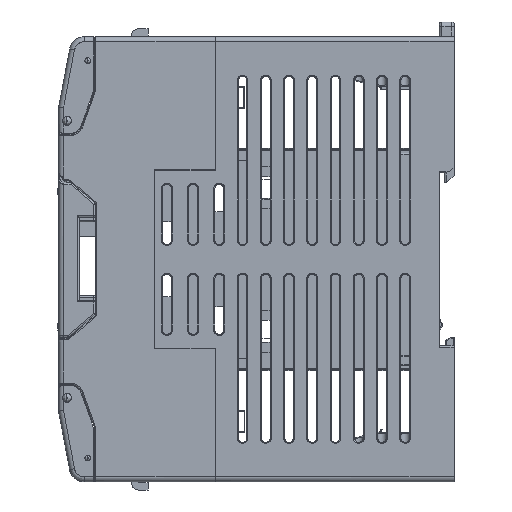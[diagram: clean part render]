
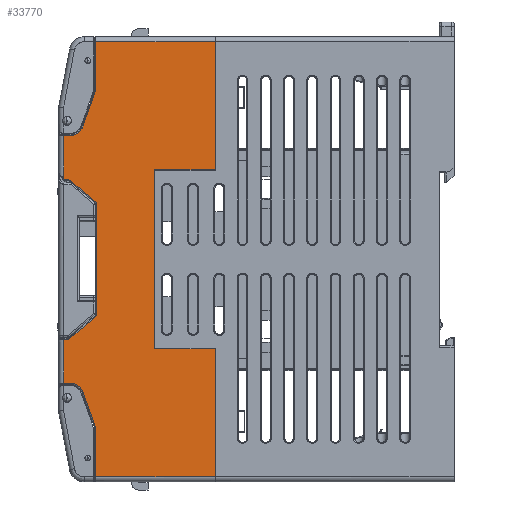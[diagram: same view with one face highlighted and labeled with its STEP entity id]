
A CAD part, left-side view. The second image highlights one B-rep face of the part: STEP entity #33770.
In plain terms, the highlighted planar face has unit normal (-1, 0, 0).
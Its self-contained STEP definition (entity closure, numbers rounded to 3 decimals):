
#33770=ADVANCED_FACE('',(#37002),#105688,.T.);
#37002=FACE_OUTER_BOUND('',#40144,.T.);
#40144=EDGE_LOOP('',(#49220,#49221,#49222,#49223,#49224,#49225,#49226,#49227,
#49228,#49229,#49230,#49231,#49232,#49233,#49234,#49235,#49236,#49237,#49238,
#49239,#49240,#49241,#49242));
#49220=ORIENTED_EDGE('',*,*,#64987,.T.);
#49221=ORIENTED_EDGE('',*,*,#65009,.T.);
#49222=ORIENTED_EDGE('',*,*,#65008,.T.);
#49223=ORIENTED_EDGE('',*,*,#65007,.T.);
#49224=ORIENTED_EDGE('',*,*,#65006,.T.);
#49225=ORIENTED_EDGE('',*,*,#65005,.T.);
#49226=ORIENTED_EDGE('',*,*,#65004,.T.);
#49227=ORIENTED_EDGE('',*,*,#65003,.T.);
#49228=ORIENTED_EDGE('',*,*,#65002,.T.);
#49229=ORIENTED_EDGE('',*,*,#65001,.T.);
#49230=ORIENTED_EDGE('',*,*,#65000,.T.);
#49231=ORIENTED_EDGE('',*,*,#64999,.T.);
#49232=ORIENTED_EDGE('',*,*,#64998,.T.);
#49233=ORIENTED_EDGE('',*,*,#64997,.T.);
#49234=ORIENTED_EDGE('',*,*,#64996,.T.);
#49235=ORIENTED_EDGE('',*,*,#64995,.T.);
#49236=ORIENTED_EDGE('',*,*,#64994,.T.);
#49237=ORIENTED_EDGE('',*,*,#64993,.T.);
#49238=ORIENTED_EDGE('',*,*,#64992,.T.);
#49239=ORIENTED_EDGE('',*,*,#64991,.T.);
#49240=ORIENTED_EDGE('',*,*,#64990,.T.);
#49241=ORIENTED_EDGE('',*,*,#64989,.T.);
#49242=ORIENTED_EDGE('',*,*,#64988,.T.);
#64987=EDGE_CURVE('',#96517,#96518,#82995,.T.);
#64988=EDGE_CURVE('',#96519,#96517,#82996,.T.);
#64989=EDGE_CURVE('',#96520,#96519,#75388,.T.);
#64990=EDGE_CURVE('',#96521,#96520,#82997,.T.);
#64991=EDGE_CURVE('',#96522,#96521,#82998,.T.);
#64992=EDGE_CURVE('',#96523,#96522,#82999,.T.);
#64993=EDGE_CURVE('',#96524,#96523,#83000,.T.);
#64994=EDGE_CURVE('',#96525,#96524,#83001,.T.);
#64995=EDGE_CURVE('',#96526,#96525,#83002,.T.);
#64996=EDGE_CURVE('',#96527,#96526,#83003,.T.);
#64997=EDGE_CURVE('',#96528,#96527,#83004,.T.);
#64998=EDGE_CURVE('',#96529,#96528,#83005,.T.);
#64999=EDGE_CURVE('',#96530,#96529,#83006,.T.);
#65000=EDGE_CURVE('',#96531,#96530,#75389,.T.);
#65001=EDGE_CURVE('',#96532,#96531,#83007,.T.);
#65002=EDGE_CURVE('',#96533,#96532,#83008,.T.);
#65003=EDGE_CURVE('',#96534,#96533,#83009,.T.);
#65004=EDGE_CURVE('',#96535,#96534,#83010,.T.);
#65005=EDGE_CURVE('',#96536,#96535,#83011,.T.);
#65006=EDGE_CURVE('',#96537,#96536,#83012,.T.);
#65007=EDGE_CURVE('',#96538,#96537,#83013,.T.);
#65008=EDGE_CURVE('',#96539,#96538,#83014,.T.);
#65009=EDGE_CURVE('',#96518,#96539,#83015,.T.);
#75388=(
BOUNDED_CURVE()
B_SPLINE_CURVE(2,(#151599,#151600,#151601),.UNSPECIFIED.,.F.,.F.)
B_SPLINE_CURVE_WITH_KNOTS((3,3),(-3.558,0.),.UNSPECIFIED.)
CURVE()
GEOMETRIC_REPRESENTATION_ITEM()
RATIONAL_B_SPLINE_CURVE((1.,0.818,1.))
REPRESENTATION_ITEM('')
);
#75389=(
BOUNDED_CURVE()
B_SPLINE_CURVE(2,(#151622,#151623,#151624),.UNSPECIFIED.,.F.,.F.)
B_SPLINE_CURVE_WITH_KNOTS((3,3),(-3.558,0.),.UNSPECIFIED.)
CURVE()
GEOMETRIC_REPRESENTATION_ITEM()
RATIONAL_B_SPLINE_CURVE((1.,0.818,1.))
REPRESENTATION_ITEM('')
);
#82995=B_SPLINE_CURVE_WITH_KNOTS('',1,(#151595,#151596),.UNSPECIFIED.,.F.,
 .F.,(2,2),(-9.935,0.),.UNSPECIFIED.);
#82996=B_SPLINE_CURVE_WITH_KNOTS('',1,(#151597,#151598),.UNSPECIFIED.,.F.,
 .F.,(2,2),(-7.534,0.),.UNSPECIFIED.);
#82997=B_SPLINE_CURVE_WITH_KNOTS('',1,(#151602,#151603),.UNSPECIFIED.,.F.,
 .F.,(2,2),(-1.229,0.),.UNSPECIFIED.);
#82998=B_SPLINE_CURVE_WITH_KNOTS('',1,(#151604,#151605),.UNSPECIFIED.,.F.,
 .F.,(2,2),(-8.85,0.),.UNSPECIFIED.);
#82999=B_SPLINE_CURVE_WITH_KNOTS('',1,(#151606,#151607),.UNSPECIFIED.,.F.,
 .F.,(2,2),(-1.074,0.),.UNSPECIFIED.);
#83000=B_SPLINE_CURVE_WITH_KNOTS('',1,(#151608,#151609),.UNSPECIFIED.,.F.,
 .F.,(2,2),(-7.33,0.),.UNSPECIFIED.);
#83001=B_SPLINE_CURVE_WITH_KNOTS('',1,(#151610,#151611),.UNSPECIFIED.,.F.,
 .F.,(2,2),(-22.885,0.),.UNSPECIFIED.);
#83002=B_SPLINE_CURVE_WITH_KNOTS('',1,(#151612,#151613),.UNSPECIFIED.,.F.,
 .F.,(2,2),(-7.33,0.),.UNSPECIFIED.);
#83003=B_SPLINE_CURVE_WITH_KNOTS('',1,(#151614,#151615),.UNSPECIFIED.,.F.,
 .F.,(2,2),(-0.897,0.),.UNSPECIFIED.);
#83004=B_SPLINE_CURVE_WITH_KNOTS('',1,(#151616,#151617),.UNSPECIFIED.,.F.,
 .F.,(2,2),(-0.276,0.),.UNSPECIFIED.);
#83005=B_SPLINE_CURVE_WITH_KNOTS('',1,(#151618,#151619),.UNSPECIFIED.,.F.,
 .F.,(2,2),(-8.638,0.),.UNSPECIFIED.);
#83006=B_SPLINE_CURVE_WITH_KNOTS('',1,(#151620,#151621),.UNSPECIFIED.,.F.,
 .F.,(2,2),(-1.229,0.),.UNSPECIFIED.);
#83007=B_SPLINE_CURVE_WITH_KNOTS('',1,(#151625,#151626),.UNSPECIFIED.,.F.,
 .F.,(2,2),(-7.534,0.),.UNSPECIFIED.);
#83008=B_SPLINE_CURVE_WITH_KNOTS('',1,(#151627,#151628),.UNSPECIFIED.,.F.,
 .F.,(2,2),(-9.935,0.),.UNSPECIFIED.);
#83009=B_SPLINE_CURVE_WITH_KNOTS('',1,(#151629,#151630),.UNSPECIFIED.,.F.,
 .F.,(2,2),(-24.2,0.),.UNSPECIFIED.);
#83010=B_SPLINE_CURVE_WITH_KNOTS('',1,(#151631,#151632),.UNSPECIFIED.,.F.,
 .F.,(2,2),(-25.9,0.),.UNSPECIFIED.);
#83011=B_SPLINE_CURVE_WITH_KNOTS('',1,(#151633,#151634),.UNSPECIFIED.,.F.,
 .F.,(2,2),(-12.3,0.),.UNSPECIFIED.);
#83012=B_SPLINE_CURVE_WITH_KNOTS('',1,(#151635,#151636),.UNSPECIFIED.,.F.,
 .F.,(2,2),(-36.2,0.),.UNSPECIFIED.);
#83013=B_SPLINE_CURVE_WITH_KNOTS('',1,(#151637,#151638),.UNSPECIFIED.,.F.,
 .F.,(2,2),(-12.3,0.),.UNSPECIFIED.);
#83014=B_SPLINE_CURVE_WITH_KNOTS('',1,(#151639,#151640),.UNSPECIFIED.,.F.,
 .F.,(2,2),(-25.9,0.),.UNSPECIFIED.);
#83015=B_SPLINE_CURVE_WITH_KNOTS('',1,(#151641,#151642),.UNSPECIFIED.,.F.,
 .F.,(2,2),(-24.2,0.),.UNSPECIFIED.);
#96517=VERTEX_POINT('',#151572);
#96518=VERTEX_POINT('',#151573);
#96519=VERTEX_POINT('',#151574);
#96520=VERTEX_POINT('',#151575);
#96521=VERTEX_POINT('',#151576);
#96522=VERTEX_POINT('',#151577);
#96523=VERTEX_POINT('',#151578);
#96524=VERTEX_POINT('',#151579);
#96525=VERTEX_POINT('',#151580);
#96526=VERTEX_POINT('',#151581);
#96527=VERTEX_POINT('',#151582);
#96528=VERTEX_POINT('',#151583);
#96529=VERTEX_POINT('',#151584);
#96530=VERTEX_POINT('',#151585);
#96531=VERTEX_POINT('',#151586);
#96532=VERTEX_POINT('',#151587);
#96533=VERTEX_POINT('',#151588);
#96534=VERTEX_POINT('',#151589);
#96535=VERTEX_POINT('',#151590);
#96536=VERTEX_POINT('',#151591);
#96537=VERTEX_POINT('',#151592);
#96538=VERTEX_POINT('',#151593);
#96539=VERTEX_POINT('',#151594);
#105688=PLANE('',#107776);
#107776=AXIS2_PLACEMENT_3D('',#151571,#110315,$);
#110315=DIRECTION('',(-1.,0.,0.));
#151571=CARTESIAN_POINT('',(-20.,4.084,-52.946));
#151572=CARTESIAN_POINT('',(-20.,31.5,-34.065));
#151573=CARTESIAN_POINT('',(-20.,31.5,-44.));
#151574=CARTESIAN_POINT('',(-20.,34.041,-26.972));
#151575=CARTESIAN_POINT('',(-20.,36.771,-25.05));
#151576=CARTESIAN_POINT('',(-20.,38.,-25.05));
#151577=CARTESIAN_POINT('',(-20.,38.,-16.2));
#151578=CARTESIAN_POINT('',(-20.,36.926,-16.2));
#151579=CARTESIAN_POINT('',(-20.,31.35,-11.442));
#151580=CARTESIAN_POINT('',(-20.,31.35,11.442));
#151581=CARTESIAN_POINT('',(-20.,36.926,16.2));
#151582=CARTESIAN_POINT('',(-20.,37.823,16.2));
#151583=CARTESIAN_POINT('',(-20.,38.,16.412));
#151584=CARTESIAN_POINT('',(-20.,38.,25.05));
#151585=CARTESIAN_POINT('',(-20.,36.771,25.05));
#151586=CARTESIAN_POINT('',(-20.,34.041,26.972));
#151587=CARTESIAN_POINT('',(-20.,31.5,34.065));
#151588=CARTESIAN_POINT('',(-20.,31.5,44.));
#151589=CARTESIAN_POINT('',(-20.,7.3,44.));
#151590=CARTESIAN_POINT('',(-20.,7.3,18.1));
#151591=CARTESIAN_POINT('',(-20.,19.6,18.1));
#151592=CARTESIAN_POINT('',(-20.,19.6,-18.1));
#151593=CARTESIAN_POINT('',(-20.,7.3,-18.1));
#151594=CARTESIAN_POINT('',(-20.,7.3,-44.));
#151595=CARTESIAN_POINT('',(-20.,31.5,-34.065));
#151596=CARTESIAN_POINT('',(-20.,31.5,-44.));
#151597=CARTESIAN_POINT('',(-20.,34.041,-26.972));
#151598=CARTESIAN_POINT('',(-20.,31.5,-34.065));
#151599=CARTESIAN_POINT('',(-20.,36.771,-25.05));
#151600=CARTESIAN_POINT('',(-20.,34.729,-25.05));
#151601=CARTESIAN_POINT('',(-20.,34.041,-26.972));
#151602=CARTESIAN_POINT('',(-20.,38.,-25.05));
#151603=CARTESIAN_POINT('',(-20.,36.771,-25.05));
#151604=CARTESIAN_POINT('',(-20.,38.,-16.2));
#151605=CARTESIAN_POINT('',(-20.,38.,-25.05));
#151606=CARTESIAN_POINT('',(-20.,36.926,-16.2));
#151607=CARTESIAN_POINT('',(-20.,38.,-16.2));
#151608=CARTESIAN_POINT('',(-20.,31.35,-11.442));
#151609=CARTESIAN_POINT('',(-20.,36.926,-16.2));
#151610=CARTESIAN_POINT('',(-20.,31.35,11.442));
#151611=CARTESIAN_POINT('',(-20.,31.35,-11.442));
#151612=CARTESIAN_POINT('',(-20.,36.926,16.2));
#151613=CARTESIAN_POINT('',(-20.,31.35,11.442));
#151614=CARTESIAN_POINT('',(-20.,37.823,16.2));
#151615=CARTESIAN_POINT('',(-20.,36.926,16.2));
#151616=CARTESIAN_POINT('',(-20.,38.,16.412));
#151617=CARTESIAN_POINT('',(-20.,37.823,16.2));
#151618=CARTESIAN_POINT('',(-20.,38.,25.05));
#151619=CARTESIAN_POINT('',(-20.,38.,16.412));
#151620=CARTESIAN_POINT('',(-20.,36.771,25.05));
#151621=CARTESIAN_POINT('',(-20.,38.,25.05));
#151622=CARTESIAN_POINT('',(-20.,34.041,26.972));
#151623=CARTESIAN_POINT('',(-20.,34.729,25.05));
#151624=CARTESIAN_POINT('',(-20.,36.771,25.05));
#151625=CARTESIAN_POINT('',(-20.,31.5,34.065));
#151626=CARTESIAN_POINT('',(-20.,34.041,26.972));
#151627=CARTESIAN_POINT('',(-20.,31.5,44.));
#151628=CARTESIAN_POINT('',(-20.,31.5,34.065));
#151629=CARTESIAN_POINT('',(-20.,7.3,44.));
#151630=CARTESIAN_POINT('',(-20.,31.5,44.));
#151631=CARTESIAN_POINT('',(-20.,7.3,18.1));
#151632=CARTESIAN_POINT('',(-20.,7.3,44.));
#151633=CARTESIAN_POINT('',(-20.,19.6,18.1));
#151634=CARTESIAN_POINT('',(-20.,7.3,18.1));
#151635=CARTESIAN_POINT('',(-20.,19.6,-18.1));
#151636=CARTESIAN_POINT('',(-20.,19.6,18.1));
#151637=CARTESIAN_POINT('',(-20.,7.3,-18.1));
#151638=CARTESIAN_POINT('',(-20.,19.6,-18.1));
#151639=CARTESIAN_POINT('',(-20.,7.3,-44.));
#151640=CARTESIAN_POINT('',(-20.,7.3,-18.1));
#151641=CARTESIAN_POINT('',(-20.,31.5,-44.));
#151642=CARTESIAN_POINT('',(-20.,7.3,-44.));
